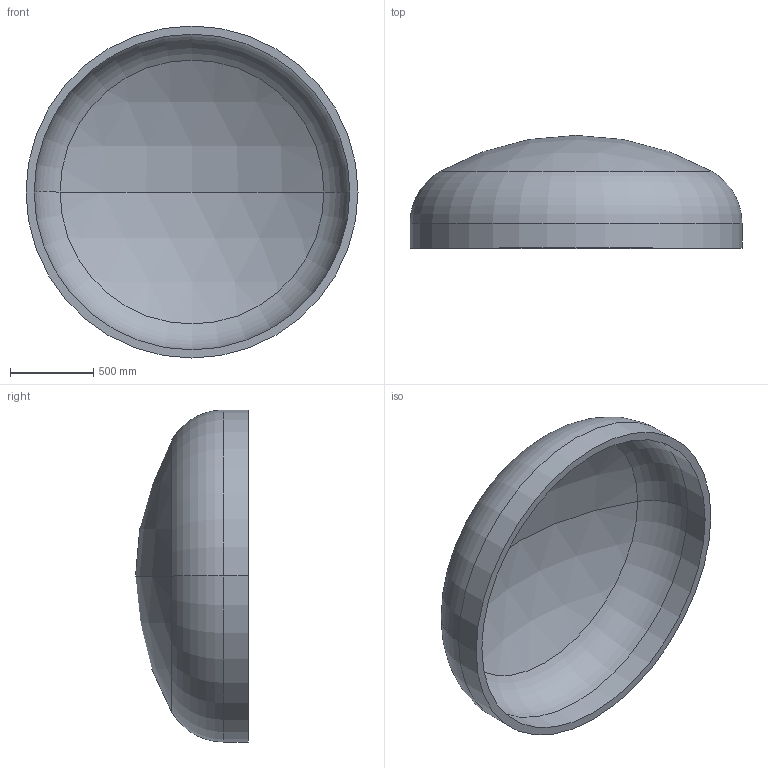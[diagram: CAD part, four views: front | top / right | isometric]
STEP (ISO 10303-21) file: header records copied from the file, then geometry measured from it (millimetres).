
FILE_DESCRIPTION (( 'STEP AP203' ), '1' );
FILE_NAME ('DIN 28013 Korbbogenform_-_Boden DIN 28013 - 2000 x 150 - I - s=49.step', '2016-07-01T13:56:04', ( '' ), ( '' ), 'SwSTEP 2.0', 'SolidWorks 2013', '' );
FILE_SCHEMA (( 'CONFIG_CONTROL_DESIGN' ));
Length unit declared in the file: millimetre
Products named in the file (1): DIN 28013 Korbbogenform_-_Boden DIN 28013 - 2000 x 150 - I - s=49
Bounding box: 2000 x 679.53 x 2000 mm (x, y, z)
Volume: 251774705 mm3; surface area: 10581877.3 mm2
Topology: 1 solids, 1 shells, 13 faces, 24 edges, 14 vertices
Faces by surface type: torus 4, cylinder 4, sphere 4, plane 1
Entity records: 407 total; most frequent: DIRECTION 72, CARTESIAN_POINT 52, ORIENTED_EDGE 48, AXIS2_PLACEMENT_3D 34, EDGE_CURVE 24, CIRCLE 20, EDGE_LOOP 14, VERTEX_POINT 14
